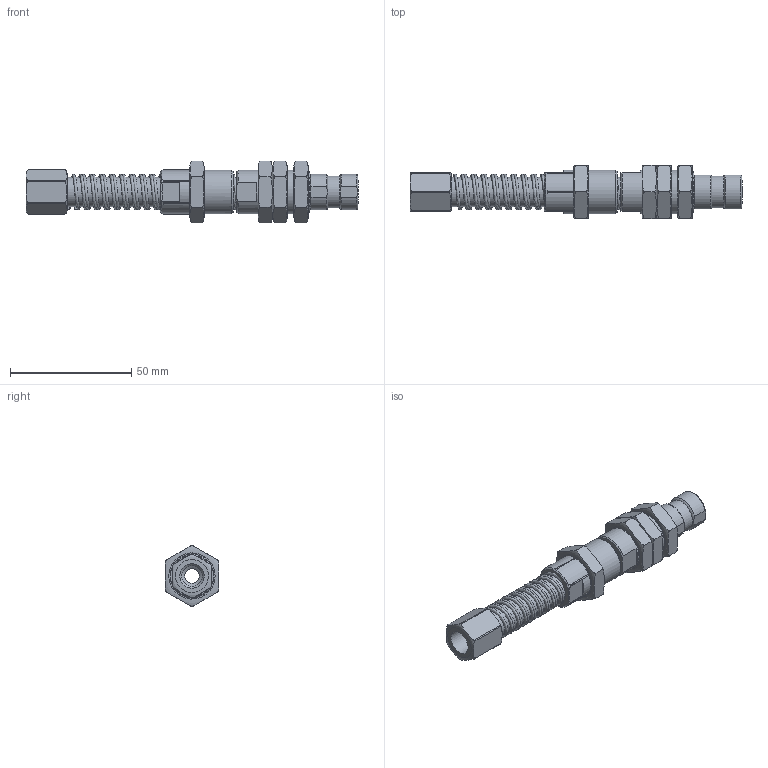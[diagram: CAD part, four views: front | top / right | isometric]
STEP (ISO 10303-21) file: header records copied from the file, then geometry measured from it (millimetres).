
FILE_DESCRIPTION( ( 'Unknown' ), '1' );
FILE_NAME( 'C:/Documents and Settings/Owner/官帕 拳搁/LEVEL SPRING HOMEPAGE/L10 Series/L1850TS-M10F/L1850TS-M10F.stp', 'Unknown', ( 'Unknown' ), ( 'Unknown' ), 'PSStep 10.0', 'Unknown', ' ' );
FILE_SCHEMA( ( 'AUTOMOTIVE_DESIGN { 1 0 10303 214 1 1 1 1 }' ) );
Length unit declared in the file: millimetre
Products named in the file (7): Assem1; SHA; NIPPLE; HOU; UPPER; NUT(M18XP1); spring
Bounding box: 137 x 22 x 25.4 mm (x, y, z)
Surface area: 36704.5 mm2 (no closed solid volume)
Topology: 0 solids, 192 shells, 192 faces, 780 edges, 700 vertices
Faces by surface type: plane 88, cylinder 56, cone 26, revolution 12, torus 8, bspline 2
Full cylindrical faces by diameter (mm): 6 x4, 7 x2, 8.2 x2, 8.5 x4, 8.8 x2, 9.5 x4, 9.8 x4, 10 x2, 11.9 x2, 12 x2, 13 x2, 18 x6
Entity records: 6864 total; most frequent: CARTESIAN_POINT 3738, DIRECTION 478, ORIENTED_EDGE 286, EDGE_CURVE 286, VERTEX_POINT 286, AXIS2_PLACEMENT_3D 203, FACE_BOUND 136, EDGE_LOOP 136
